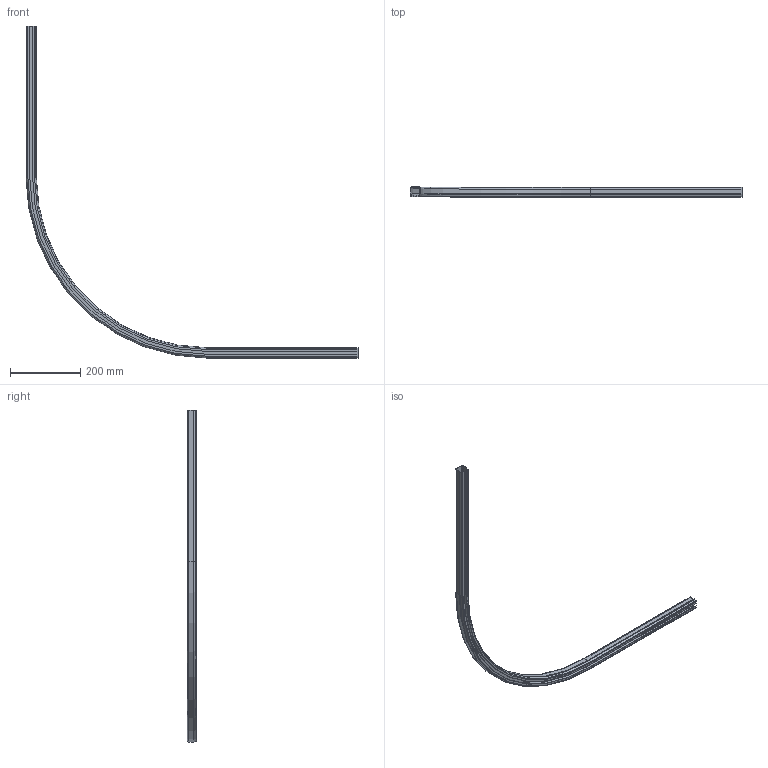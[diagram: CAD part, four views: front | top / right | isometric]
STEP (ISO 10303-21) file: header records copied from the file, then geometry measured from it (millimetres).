
FILE_DESCRIPTION(/* description */ (''),/* implementation_level */ '2;1');
FILE_NAME(/* name */ 'Q:\sge-ma\Produktmanagement-STB\STB\Workspace\stp\010337039.stp',/* time_stamp */ '2015-07-09T12:59:50+02:00',/* author */ ('avschreier'),/* organization */ (''),/* preprocessor_version */ 'ST-DEVELOPER v15.6',/* originating_system */ 'Autodesk Inventor 2015',/* authorisation */ '');
FILE_SCHEMA (('CONFIG_CONTROL_DESIGN'));
Length unit declared in the file: millimetre
Products named in the file (1): 010337039
Bounding box: 944.75 x 27.5 x 944.75 mm (x, y, z)
Volume: 259183.8 mm3; surface area: 302284 mm2
Topology: 1 solids, 1 shells, 74 faces, 184 edges, 112 vertices
Faces by surface type: cylinder 30, plane 28, torus 12, cone 4
Entity records: 2212 total; most frequent: DIRECTION 410, CARTESIAN_POINT 371, ORIENTED_EDGE 368, EDGE_CURVE 184, AXIS2_PLACEMENT_3D 151, VERTEX_POINT 112, LINE 108, VECTOR 108
